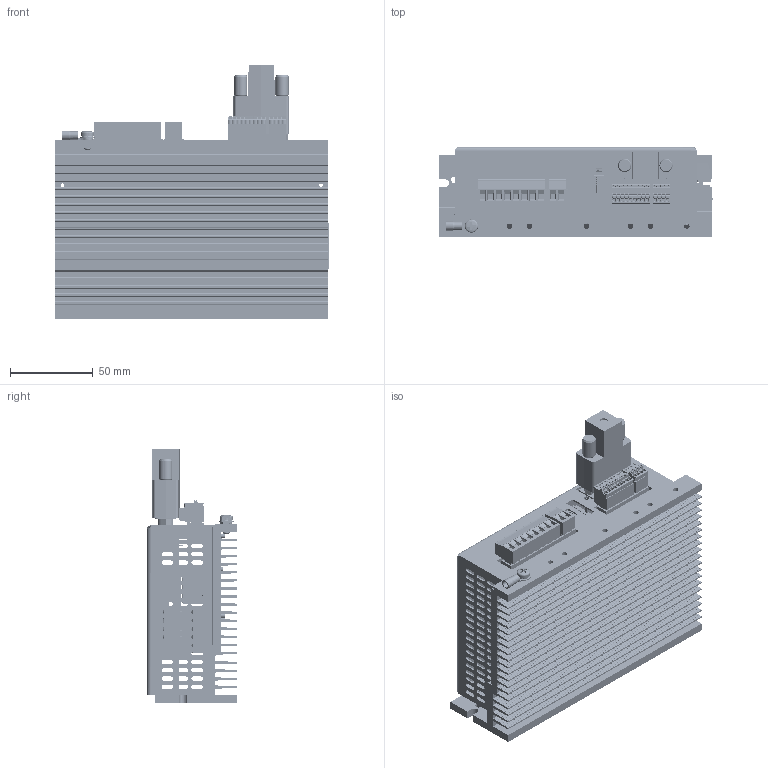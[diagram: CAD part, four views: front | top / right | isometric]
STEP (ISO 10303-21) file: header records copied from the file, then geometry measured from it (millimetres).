
FILE_DESCRIPTION((''),'2;1');
FILE_NAME('SW1A4185F161-00_ASM_ASM','2017-05-23T',('Matteo Maccalli'),(''),'PRO/ENGINEER BY PARAMETRIC TECHNOLOGY CORPORATION, 2006320','PRO/ENGINEER BY PARAMETRIC TECHNOLOGY CORPORATION, 2006320','');
FILE_SCHEMA(('AUTOMOTIVE_DESIGN_CC2 { 1 2 10303 214 -1 1 5 2 }'));
Products named in the file (121): ESTRUSO_DMD30_128; AD-00796-00_7; BOARD-1853_1; MC_0_5-4-G-2_5_1; 1881464_ASM_1_ASM; CN3_ASM_1_ASM; MC_0_5-9-G-2_5_1; 1881516_ASM_1_ASM; CN2_ASM_1_ASM; CN1L_ASM_1_ASM; MANIFOLD_SOLID_BREP_198090; MANIFOLD_SOLID_BREP_198155; MANIFOLD_SOLID_BREP_198220; MANIFOLD_SOLID_BREP_198285; _MSTBA_2_5-8-G-5_08_1; MSTBA_2_5-8-G-5_08_1_ASM; 1757307_ASM_1_ASM; CN1-642684_ASM_1_ASM; PCB_ASM_4_ASM; 1757242_1; 1803329_1; MANIFOLD_SOLID_BREP_295543; MANIFOLD_SOLID_BREP_301893; 956224883_1_ASM; BOARD_2; 98423-F61-11ULFC_3; CN1_ASM_2_ASM; SW3DPS-HRM-08-T_ACIS_SOLID_5648; SW3DPS-HRM-08-T_ACIS_SOLID_5998; SW3DPS-HRM-08-T_ACIS_SOLID_5337; SW3DPS-HRM-08-T_PART_9642_3; SW3DPS-HRM-08-T_ACIS_SOLID_7487; SW3DPS-HRM-08-T_ACIS_SOLID_6309; SW3DPS-HRM-08-T_ACIS_SOLID_7864; SW3DPS-HRM-08-T_PART_1931_3; SW3DPS-HRM-08-T_ACIS_SOLID_6243; SW3DPS-HRM-08-T_ACIS_SOLID_5687; SW3DPS-HRM-08-T_ACIS_SOLID_5536; SW3DPS-HRM-08-T_ACIS_SOLID_7319; SW3DPS-HRM-08-T_ACIS_SOLID_7798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
Assembly tree (130 placements, depth 9):
  SW1A4185F161-00_ASM_ASM
    SW1A4185F161-00_ASM_40_ASM
      ESTRUSO_DMD30_128
      AD-00796-00_7
      DMD30V40R00-00_ASM_22_ASM
        PCB_ASM_4_ASM
          BOARD-1853_1
          CN3_ASM_1_ASM
            1881464_ASM_1_ASM
              MC_0_5-4-G-2_5_1
          CN2_ASM_1_ASM
            1881516_ASM_1_ASM
              MC_0_5-9-G-2_5_1
          CN1L_ASM_1_ASM
          CN1-642684_ASM_1_ASM
            1757307_ASM_1_ASM
              MSTBA_2_5-8-G-5_08_1_ASM
                MANIFOLD_SOLID_BREP_198090
                MANIFOLD_SOLID_BREP_198155
                MANIFOLD_SOLID_BREP_198220
                MANIFOLD_SOLID_BREP_198285
                _MSTBA_2_5-8-G-5_08_1
        1757242_1
        1803329_1
        956224883_1_ASM
          MANIFOLD_SOLID_BREP_295543
          MANIFOLD_SOLID_BREP_301893
        DMD30VIS-01_ASM_3_ASM
          ASM0017_ASM_2_ASM
            BOARD_2
            CN1_ASM_2_ASM
              98423-F61-11ULFC_3
            DIP1_ASM_3_ASM
              SW3DPS-HRM-08-T_ASM_3_ASM
                SW3DPS-HRM-08-T_ACIS_SOLID_5648
                SW3DPS-HRM-08-T_ACIS_SOLID_5998
                SW3DPS-HRM-08-T_ACIS_SOLID_5337
                SW3DPS-HRM-08-T_PART_9642_3
                SW3DPS-HRM-08-T_ACIS_SOLID_7487
                SW3DPS-HRM-08-T_ACIS_SOLID_6309
                SW3DPS-HRM-08-T_ACIS_SOLID_7864
                SW3DPS-HRM-08-T_PART_1931_3
                SW3DPS-HRM-08-T_ACIS_SOLID_6243
                SW3DPS-HRM-08-T_ACIS_SOLID_5687
                SW3DPS-HRM-08-T_ACIS_SOLID_5536
                SW3DPS-HRM-08-T_ACIS_SOLID_7319
                SW3DPS-HRM-08-T_ACIS_SOLID_7798
                SW3DPS-HRM-08-T_ACIS_SOLID_7713
                SW3DPS-HRM-08-T_ACIS_SOLID_5847
                SW3DPS-HRM-08-T_PART_1929_3
                SW3DPS-HRM-08-T_ACIS_SOLID_6469
                SW3DPS-HRM-08-T_ACIS_SOLID_5453
                SW3DPS-HRM-08-T_ACIS_SOLID_7553
                SW3DPS-HRM-08-T_ACIS_SOLID_6075
                SW3DPS-HRM-08-T_ACIS_SOLID_6158
                SW3DPS-HRM-08-T_ACIS_SOLID_7242
                SW3DPS-HRM-08-T_ACIS_SOLID_2305
                SW3DPS-HRM-08-T_ACIS_SOLID_7630
                SW3DPS-HRM-08-T_ACIS_SOLID_5376
                SW3DPS-HRM-08-T_ACIS_SOLID_2251
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Bounding box: 165.27 x 54.3 x 153.77 mm (x, y, z)
Volume: 243877.8 mm3; surface area: 291867.1 mm2
Topology: 83 solids, 251 shells, 11807 faces, 34051 edges, 22851 vertices
Faces by surface type: plane 8626, cylinder 2854, cone 138, sphere 98, torus 82, bspline 7, extrusion 2
Entity records: 450300 total; most frequent: CARTESIAN_POINT 84794, ORIENTED_EDGE 65550, DIRECTION 62695, EDGE_CURVE 33662, VECTOR 23703, LINE 23701, VERTEX_POINT 22631, AXIS2_PLACEMENT_3D 19496
